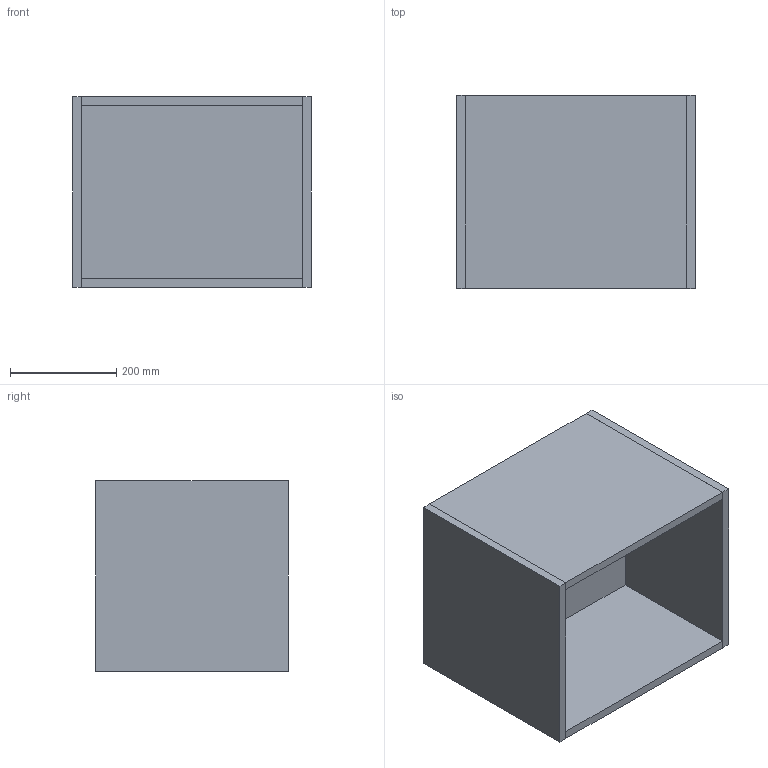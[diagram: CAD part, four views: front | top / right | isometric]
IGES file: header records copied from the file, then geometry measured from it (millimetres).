
Start section: Data from Parasolid IGES Translator 19.0.9, Copyright(c) 2006 Siemens PL M Software. All Rights Reserved.
Global section: file name: noorth-SI-H 36 D 38,8 W 45_8342.igs; native system: By Siemens PLM Incorporated; preprocessor: XPlus GENERIC/IGES 19.0.9; author: Noname; organization: Noname; date: 20200601.091942; units: metre
Bounding box: 450.01 x 364.06 x 360 mm (x, y, z)
Volume: 9455910.1 mm3; surface area: 1507874.3 mm2
Topology: 5 solids, 5 shells, 30 faces, 60 edges, 40 vertices
Faces by surface type: plane 30
